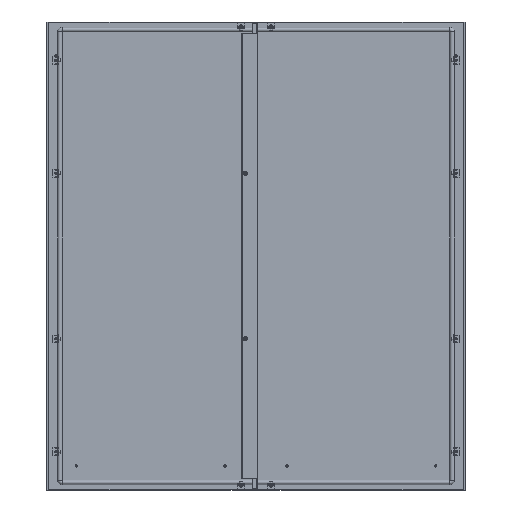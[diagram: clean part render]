
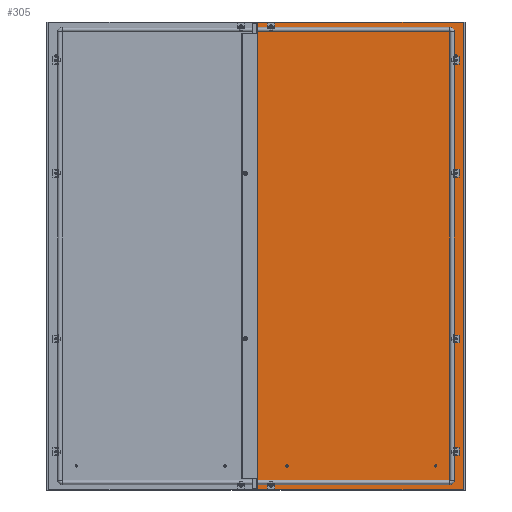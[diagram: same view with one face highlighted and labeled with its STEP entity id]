
A CAD part, top view. The second image highlights one B-rep face of the part: STEP entity #305.
In plain terms, the highlighted planar face has unit normal (0, 0, 1) as drawn and (0, 0, -1) by its records, which use the part's own axes.
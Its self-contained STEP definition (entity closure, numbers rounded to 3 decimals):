
#305 = ADVANCED_FACE('',(#306,#317,#328,#339,#350,#361,#372),#470,.T.);
#306 = FACE_BOUND('',#307,.T.);
#307 = EDGE_LOOP('',(#308));
#308 = ORIENTED_EDGE('',*,*,#309,.T.);
#309 = EDGE_CURVE('',#310,#310,#312,.T.);
#310 = VERTEX_POINT('',#311);
#311 = CARTESIAN_POINT('',(319.25,-650.,-1.5));
#312 = CIRCLE('',#313,4.75);
#313 = AXIS2_PLACEMENT_3D('',#314,#315,#316);
#314 = CARTESIAN_POINT('',(314.5,-650.,-1.5));
#315 = DIRECTION('',(0.,0.,1.));
#316 = DIRECTION('',(1.,0.,-0.));
#317 = FACE_BOUND('',#318,.T.);
#318 = EDGE_LOOP('',(#319));
#319 = ORIENTED_EDGE('',*,*,#320,.T.);
#320 = EDGE_CURVE('',#321,#321,#323,.T.);
#321 = VERTEX_POINT('',#322);
#322 = CARTESIAN_POINT('',(319.25,-275.,-1.5));
#323 = CIRCLE('',#324,4.75);
#324 = AXIS2_PLACEMENT_3D('',#325,#326,#327);
#325 = CARTESIAN_POINT('',(314.5,-275.,-1.5));
#326 = DIRECTION('',(0.,0.,1.));
#327 = DIRECTION('',(1.,0.,-0.));
#328 = FACE_BOUND('',#329,.T.);
#329 = EDGE_LOOP('',(#330));
#330 = ORIENTED_EDGE('',*,*,#331,.F.);
#331 = EDGE_CURVE('',#332,#332,#334,.T.);
#332 = VERTEX_POINT('',#333);
#333 = CARTESIAN_POINT('',(319.25,650.,-1.5));
#334 = CIRCLE('',#335,4.75);
#335 = AXIS2_PLACEMENT_3D('',#336,#337,#338);
#336 = CARTESIAN_POINT('',(314.5,650.,-1.5));
#337 = DIRECTION('',(0.,0.,-1.));
#338 = DIRECTION('',(1.,0.,0.));
#339 = FACE_BOUND('',#340,.T.);
#340 = EDGE_LOOP('',(#341));
#341 = ORIENTED_EDGE('',*,*,#342,.F.);
#342 = EDGE_CURVE('',#343,#343,#345,.T.);
#343 = VERTEX_POINT('',#344);
#344 = CARTESIAN_POINT('',(319.25,275.,-1.5));
#345 = CIRCLE('',#346,4.75);
#346 = AXIS2_PLACEMENT_3D('',#347,#348,#349);
#347 = CARTESIAN_POINT('',(314.5,275.,-1.5));
#348 = DIRECTION('',(0.,0.,-1.));
#349 = DIRECTION('',(1.,0.,0.));
#350 = FACE_BOUND('',#351,.T.);
#351 = EDGE_LOOP('',(#352));
#352 = ORIENTED_EDGE('',*,*,#353,.T.);
#353 = EDGE_CURVE('',#354,#354,#356,.T.);
#354 = VERTEX_POINT('',#355);
#355 = CARTESIAN_POINT('',(-304.75,764.5,-1.5));
#356 = CIRCLE('',#357,4.75);
#357 = AXIS2_PLACEMENT_3D('',#358,#359,#360);
#358 = CARTESIAN_POINT('',(-300.,764.5,-1.5));
#359 = DIRECTION('',(0.,0.,1.));
#360 = DIRECTION('',(-1.,0.,0.));
#361 = FACE_BOUND('',#362,.T.);
#362 = EDGE_LOOP('',(#363));
#363 = ORIENTED_EDGE('',*,*,#364,.T.);
#364 = EDGE_CURVE('',#365,#365,#367,.T.);
#365 = VERTEX_POINT('',#366);
#366 = CARTESIAN_POINT('',(-295.25,-764.5,-1.5));
#367 = CIRCLE('',#368,4.75);
#368 = AXIS2_PLACEMENT_3D('',#369,#370,#371);
#369 = CARTESIAN_POINT('',(-300.,-764.5,-1.5));
#370 = DIRECTION('',(0.,0.,1.));
#371 = DIRECTION('',(1.,0.,-0.));
#372 = FACE_BOUND('',#373,.T.);
#373 = EDGE_LOOP('',(#374,#384,#392,#400,#408,#416,#424,#432,#440,#448,
    #456,#464));
#374 = ORIENTED_EDGE('',*,*,#375,.F.);
#375 = EDGE_CURVE('',#376,#378,#380,.T.);
#376 = VERTEX_POINT('',#377);
#377 = CARTESIAN_POINT('',(-345.3,-776.,-1.5));
#378 = VERTEX_POINT('',#379);
#379 = CARTESIAN_POINT('',(345.3,-776.,-1.5));
#380 = LINE('',#381,#382);
#381 = CARTESIAN_POINT('',(0.,-776.,-1.5));
#382 = VECTOR('',#383,1.);
#383 = DIRECTION('',(1.,0.,0.));
#384 = ORIENTED_EDGE('',*,*,#385,.F.);
#385 = EDGE_CURVE('',#386,#376,#388,.T.);
#386 = VERTEX_POINT('',#387);
#387 = CARTESIAN_POINT('',(-345.3,-777.5,-1.5));
#388 = LINE('',#389,#390);
#389 = CARTESIAN_POINT('',(-345.3,0.,-1.5));
#390 = VECTOR('',#391,1.);
#391 = DIRECTION('',(0.,1.,0.));
#392 = ORIENTED_EDGE('',*,*,#393,.F.);
#393 = EDGE_CURVE('',#394,#386,#396,.T.);
#394 = VERTEX_POINT('',#395);
#395 = CARTESIAN_POINT('',(-345.5,-777.5,-1.5));
#396 = LINE('',#397,#398);
#397 = CARTESIAN_POINT('',(0.,-777.5,-1.5));
#398 = VECTOR('',#399,1.);
#399 = DIRECTION('',(1.,0.,0.));
#400 = ORIENTED_EDGE('',*,*,#401,.T.);
#401 = EDGE_CURVE('',#394,#402,#404,.T.);
#402 = VERTEX_POINT('',#403);
#403 = CARTESIAN_POINT('',(-345.5,777.5,-1.5));
#404 = LINE('',#405,#406);
#405 = CARTESIAN_POINT('',(-345.5,0.,-1.5));
#406 = VECTOR('',#407,1.);
#407 = DIRECTION('',(0.,1.,0.));
#408 = ORIENTED_EDGE('',*,*,#409,.F.);
#409 = EDGE_CURVE('',#410,#402,#412,.T.);
#410 = VERTEX_POINT('',#411);
#411 = CARTESIAN_POINT('',(-345.3,777.5,-1.5));
#412 = LINE('',#413,#414);
#413 = CARTESIAN_POINT('',(0.,777.5,-1.5));
#414 = VECTOR('',#415,1.);
#415 = DIRECTION('',(-1.,0.,0.));
#416 = ORIENTED_EDGE('',*,*,#417,.T.);
#417 = EDGE_CURVE('',#410,#418,#420,.T.);
#418 = VERTEX_POINT('',#419);
#419 = CARTESIAN_POINT('',(-345.3,776.,-1.5));
#420 = LINE('',#421,#422);
#421 = CARTESIAN_POINT('',(-345.3,0.,-1.5));
#422 = VECTOR('',#423,1.);
#423 = DIRECTION('',(0.,-1.,0.));
#424 = ORIENTED_EDGE('',*,*,#425,.F.);
#425 = EDGE_CURVE('',#426,#418,#428,.T.);
#426 = VERTEX_POINT('',#427);
#427 = CARTESIAN_POINT('',(345.3,776.,-1.5));
#428 = LINE('',#429,#430);
#429 = CARTESIAN_POINT('',(0.,776.,-1.5));
#430 = VECTOR('',#431,1.);
#431 = DIRECTION('',(-1.,0.,0.));
#432 = ORIENTED_EDGE('',*,*,#433,.F.);
#433 = EDGE_CURVE('',#434,#426,#436,.T.);
#434 = VERTEX_POINT('',#435);
#435 = CARTESIAN_POINT('',(345.3,777.5,-1.5));
#436 = LINE('',#437,#438);
#437 = CARTESIAN_POINT('',(345.3,0.,
    -1.5));
#438 = VECTOR('',#439,1.);
#439 = DIRECTION('',(0.,-1.,0.));
#440 = ORIENTED_EDGE('',*,*,#441,.F.);
#441 = EDGE_CURVE('',#442,#434,#444,.T.);
#442 = VERTEX_POINT('',#443);
#443 = CARTESIAN_POINT('',(345.5,777.5,-1.5));
#444 = LINE('',#445,#446);
#445 = CARTESIAN_POINT('',(0.,777.5,-1.5));
#446 = VECTOR('',#447,1.);
#447 = DIRECTION('',(-1.,0.,0.));
#448 = ORIENTED_EDGE('',*,*,#449,.T.);
#449 = EDGE_CURVE('',#442,#450,#452,.T.);
#450 = VERTEX_POINT('',#451);
#451 = CARTESIAN_POINT('',(345.5,-777.5,-1.5));
#452 = LINE('',#453,#454);
#453 = CARTESIAN_POINT('',(345.5,0.,
    -1.5));
#454 = VECTOR('',#455,1.);
#455 = DIRECTION('',(0.,-1.,0.));
#456 = ORIENTED_EDGE('',*,*,#457,.F.);
#457 = EDGE_CURVE('',#458,#450,#460,.T.);
#458 = VERTEX_POINT('',#459);
#459 = CARTESIAN_POINT('',(345.3,-777.5,-1.5));
#460 = LINE('',#461,#462);
#461 = CARTESIAN_POINT('',(0.,-777.5,-1.5));
#462 = VECTOR('',#463,1.);
#463 = DIRECTION('',(1.,0.,0.));
#464 = ORIENTED_EDGE('',*,*,#465,.T.);
#465 = EDGE_CURVE('',#458,#378,#466,.T.);
#466 = LINE('',#467,#468);
#467 = CARTESIAN_POINT('',(345.3,0.,
    -1.5));
#468 = VECTOR('',#469,1.);
#469 = DIRECTION('',(0.,1.,0.));
#470 = PLANE('',#471);
#471 = AXIS2_PLACEMENT_3D('',#472,#473,#474);
#472 = CARTESIAN_POINT('',(0.,0.,
    -1.5));
#473 = DIRECTION('',(-0.,0.,-1.));
#474 = DIRECTION('',(-1.,0.,0.));
